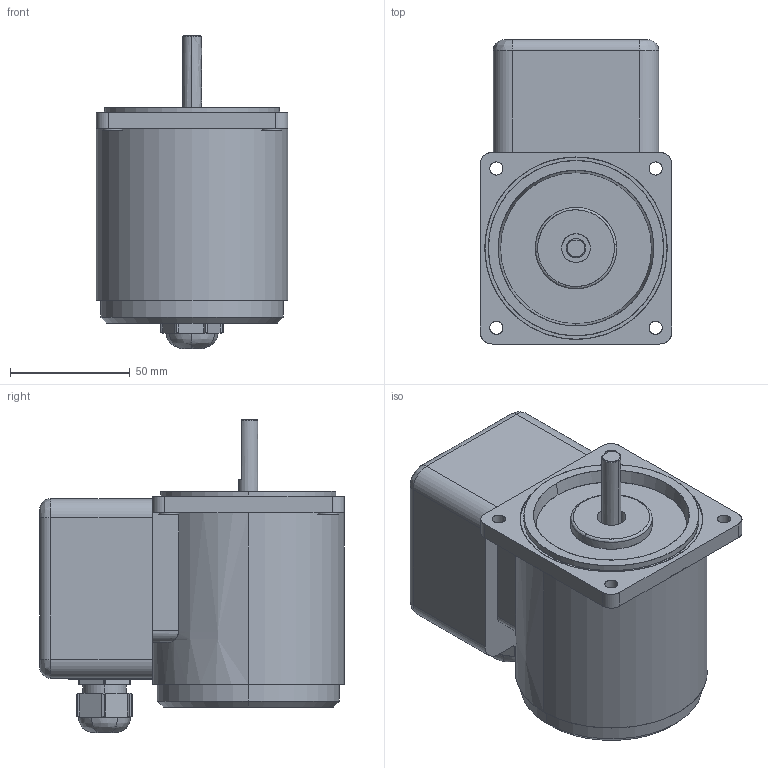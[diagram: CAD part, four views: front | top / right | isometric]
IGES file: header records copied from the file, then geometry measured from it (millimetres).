
Start section: SolidWorks IGES file using analytic representation for surfaces
Bounding box: 80 x 127 x 130.63 mm (x, y, z)
Surface area: 95653.1 mm2 (no closed solid volume)
Topology: 0 solids, 0 shells, 213 faces, 3819 edges, 3819 vertices
Faces by surface type: bspline 119, revolution 94
